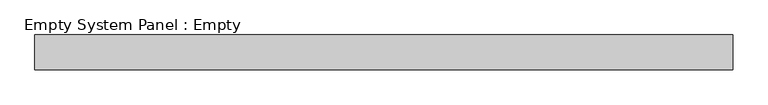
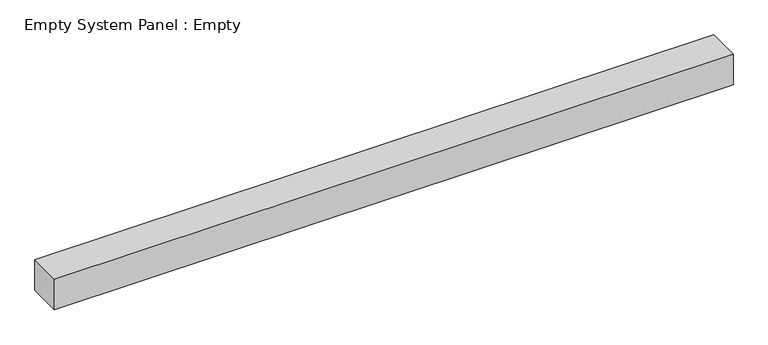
"""IFC4 building model written with IfcOpenShell, lengths in millimetres: plate geometry, Empty System Panel : Empty."""

from ifc_helpers import new_model, si_unit, origin, origin_with_axes, place, context, project, spatial, polyline, outline, extrude, source, transform, mapped, element, save


def empty_system_panel_empty_e07de6c1(model_context):
    return source(origin(), model_context, "Body", "SweptSolid", [
        extrude(outline(polyline([(1000.0, -50.0), (-1000.0, -50.0), (-1000.0, 50.0), (1000.0, 50.0), (1000.0, -50.0)])), origin_with_axes(), (0.0, 0.0, 1.0), 95.1507576),
    ])


if __name__ == "__main__":
    model = new_model("IFC4")
    model_context = context("Model", 3, world=origin())
    ifc_project = project(units=[si_unit("LENGTHUNIT", "METRE", prefix="MILLI")], contexts=[model_context])
    site = spatial("IfcSite", under=ifc_project)
    building = spatial("IfcBuilding", under=site)
    placement = place(None, origin())
    empty_system_panel_empty_shape = empty_system_panel_empty_e07de6c1(model_context)
    element("IfcPlate", 1, ObjectType="Empty System Panel : Empty", at=placement, inside=building, context=model_context, shape_type="MappedRepresentation", body=[
        mapped(empty_system_panel_empty_shape, transform((0.0, 0.0, 0.0), x_axis=(1.0, 0.0, 0.0), y_axis=(0.0, 1.0, 0.0), z_axis=(0.0, 0.0, 1.0))),
    ])
    save(model, "model.ifc")
